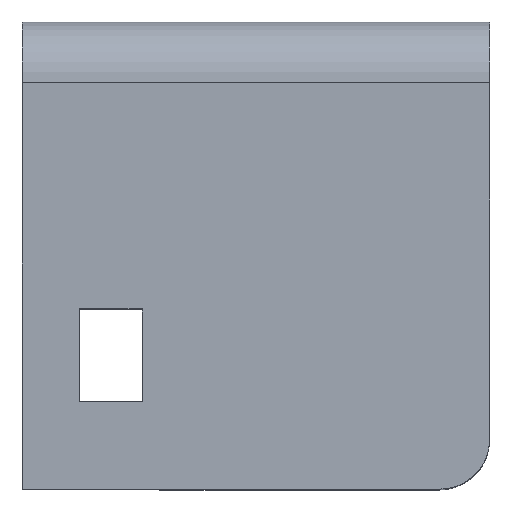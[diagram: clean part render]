
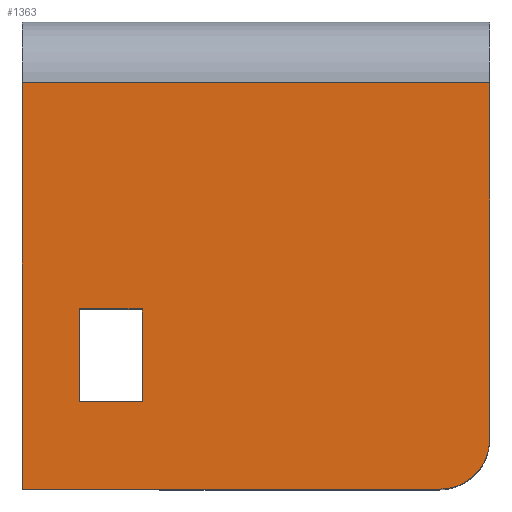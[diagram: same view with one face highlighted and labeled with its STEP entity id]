
A CAD part, top view. The second image highlights one B-rep face of the part: STEP entity #1363.
In plain terms, the highlighted planar face has unit normal (0, 0, 1).
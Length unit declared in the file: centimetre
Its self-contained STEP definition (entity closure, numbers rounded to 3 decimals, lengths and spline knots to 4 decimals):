
#12 = LINE ( 'NONE', #479, #1120 ) ;
#57 = VECTOR ( 'NONE', #620, 100. ) ;
#64 = ORIENTED_EDGE ( 'NONE', *, *, #415, .T. ) ;
#101 = CARTESIAN_POINT ( 'NONE',  ( 121.7465, 187.2099, 1000. ) ) ;
#146 = CARTESIAN_POINT ( 'NONE',  ( 121.7465, 385.6299, 1000. ) ) ;
#160 = CARTESIAN_POINT ( 'NONE',  ( 1000., 869.5475, 1000. ) ) ;
#174 = VECTOR ( 'NONE', #430, 100. ) ;
#191 = DIRECTION ( 'NONE',  ( 0., 0., 1. ) ) ;
#232 = CARTESIAN_POINT ( 'NONE',  ( 0., 0., 1000. ) ) ;
#236 = EDGE_LOOP ( 'NONE', ( #1502, #1260, #372, #1385, #873 ) ) ;
#239 = LINE ( 'NONE', #690, #510 ) ;
#251 = DIRECTION ( 'NONE',  ( 0., -1., 0. ) ) ;
#359 = VERTEX_POINT ( 'NONE', #876 ) ;
#364 = VECTOR ( 'NONE', #1465, 100. ) ;
#372 = ORIENTED_EDGE ( 'NONE', *, *, #394, .T. ) ;
#394 = EDGE_CURVE ( 'NONE', #966, #702, #535, .T. ) ;
#395 = CARTESIAN_POINT ( 'NONE',  ( 0., 869.5475, 1000. ) ) ;
#415 = EDGE_CURVE ( 'NONE', #539, #359, #1222, .T. ) ;
#430 = DIRECTION ( 'NONE',  ( 0., 1., 0. ) ) ;
#476 = CARTESIAN_POINT ( 'NONE',  ( 256.4948, 187.2099, 1000. ) ) ;
#479 = CARTESIAN_POINT ( 'NONE',  ( 0., 0., 1000. ) ) ;
#503 = CARTESIAN_POINT ( 'NONE',  ( 256.4948, 187.2099, 1000. ) ) ;
#504 = LINE ( 'NONE', #146, #757 ) ;
#510 = VECTOR ( 'NONE', #251, 100. ) ;
#520 = LINE ( 'NONE', #503, #57 ) ;
#521 = CARTESIAN_POINT ( 'NONE',  ( 256.4948, 385.6299, 1000. ) ) ;
#534 = EDGE_CURVE ( 'NONE', #359, #560, #1056, .T. ) ;
#535 = LINE ( 'NONE', #1474, #174 ) ;
#539 = VERTEX_POINT ( 'NONE', #476 ) ;
#560 = VERTEX_POINT ( 'NONE', #1044 ) ;
#578 = VECTOR ( 'NONE', #1384, 100. ) ;
#579 = EDGE_LOOP ( 'NONE', ( #636, #849, #1139, #64 ) ) ;
#608 = CARTESIAN_POINT ( 'NONE',  ( 1000., 106.7504, 1000. ) ) ;
#614 = DIRECTION ( 'NONE',  ( -1., 0., 0. ) ) ;
#620 = DIRECTION ( 'NONE',  ( 0., -1., 0. ) ) ;
#636 = ORIENTED_EDGE ( 'NONE', *, *, #534, .T. ) ;
#690 = CARTESIAN_POINT ( 'NONE',  ( 0., 1000., 1000. ) ) ;
#702 = VERTEX_POINT ( 'NONE', #160 ) ;
#703 = EDGE_CURVE ( 'NONE', #1147, #539, #520, .T. ) ;
#715 = DIRECTION ( 'NONE',  ( 1., 0., 0. ) ) ;
#716 = CARTESIAN_POINT ( 'NONE',  ( 0., 0., 1000. ) ) ;
#731 = VECTOR ( 'NONE', #614, 100. ) ;
#757 = VECTOR ( 'NONE', #1291, 100. ) ;
#821 = DIRECTION ( 'NONE',  ( 1., 0., 0. ) ) ;
#822 = LINE ( 'NONE', #395, #731 ) ;
#831 = AXIS2_PLACEMENT_3D ( 'NONE', #1460, #191, #1348 ) ;
#849 = ORIENTED_EDGE ( 'NONE', *, *, #980, .T. ) ;
#873 = ORIENTED_EDGE ( 'NONE', *, *, #1355, .T. ) ;
#876 = CARTESIAN_POINT ( 'NONE',  ( 121.7465, 187.2099, 1000. ) ) ;
#904 = CIRCLE ( 'NONE', #831, 106.7504 ) ;
#935 = DIRECTION ( 'NONE',  ( 0., 0., 1. ) ) ;
#940 = PLANE ( 'NONE',  #1253 ) ;
#966 = VERTEX_POINT ( 'NONE', #608 ) ;
#980 = EDGE_CURVE ( 'NONE', #560, #1147, #504, .T. ) ;
#999 = EDGE_CURVE ( 'NONE', #702, #1386, #822, .T. ) ;
#1000 = CARTESIAN_POINT ( 'NONE',  ( 121.7465, 187.2099, 1000. ) ) ;
#1005 = VERTEX_POINT ( 'NONE', #1081 ) ;
#1043 = VERTEX_POINT ( 'NONE', #716 ) ;
#1044 = CARTESIAN_POINT ( 'NONE',  ( 121.7465, 385.6299, 1000. ) ) ;
#1056 = LINE ( 'NONE', #101, #578 ) ;
#1081 = CARTESIAN_POINT ( 'NONE',  ( 893.2496, 0., 1000. ) ) ;
#1120 = VECTOR ( 'NONE', #821, 100. ) ;
#1139 = ORIENTED_EDGE ( 'NONE', *, *, #703, .T. ) ;
#1147 = VERTEX_POINT ( 'NONE', #521 ) ;
#1168 = EDGE_CURVE ( 'NONE', #1005, #966, #904, .T. ) ;
#1179 = CARTESIAN_POINT ( 'NONE',  ( 0., 869.5475, 1000. ) ) ;
#1222 = LINE ( 'NONE', #1000, #364 ) ;
#1253 = AXIS2_PLACEMENT_3D ( 'NONE', #232, #935, #715 ) ;
#1258 = FACE_OUTER_BOUND ( 'NONE', #236, .T. ) ;
#1260 = ORIENTED_EDGE ( 'NONE', *, *, #1168, .T. ) ;
#1280 = FACE_BOUND ( 'NONE', #579, .T. ) ;
#1291 = DIRECTION ( 'NONE',  ( 1., 0., 0. ) ) ;
#1346 = EDGE_CURVE ( 'NONE', #1043, #1005, #12, .T. ) ;
#1348 = DIRECTION ( 'NONE',  ( 1., 0., 0. ) ) ;
#1355 = EDGE_CURVE ( 'NONE', #1386, #1043, #239, .T. ) ;
#1363 = ADVANCED_FACE ( 'NONE', ( #1280, #1258 ), #940, .T. ) ;
#1384 = DIRECTION ( 'NONE',  ( 0., 1., 0. ) ) ;
#1385 = ORIENTED_EDGE ( 'NONE', *, *, #999, .T. ) ;
#1386 = VERTEX_POINT ( 'NONE', #1179 ) ;
#1460 = CARTESIAN_POINT ( 'NONE',  ( 893.2496, 106.7504, 1000. ) ) ;
#1465 = DIRECTION ( 'NONE',  ( -1., 0., 0. ) ) ;
#1474 = CARTESIAN_POINT ( 'NONE',  ( 1000., 1000., 1000. ) ) ;
#1502 = ORIENTED_EDGE ( 'NONE', *, *, #1346, .T. ) ;
